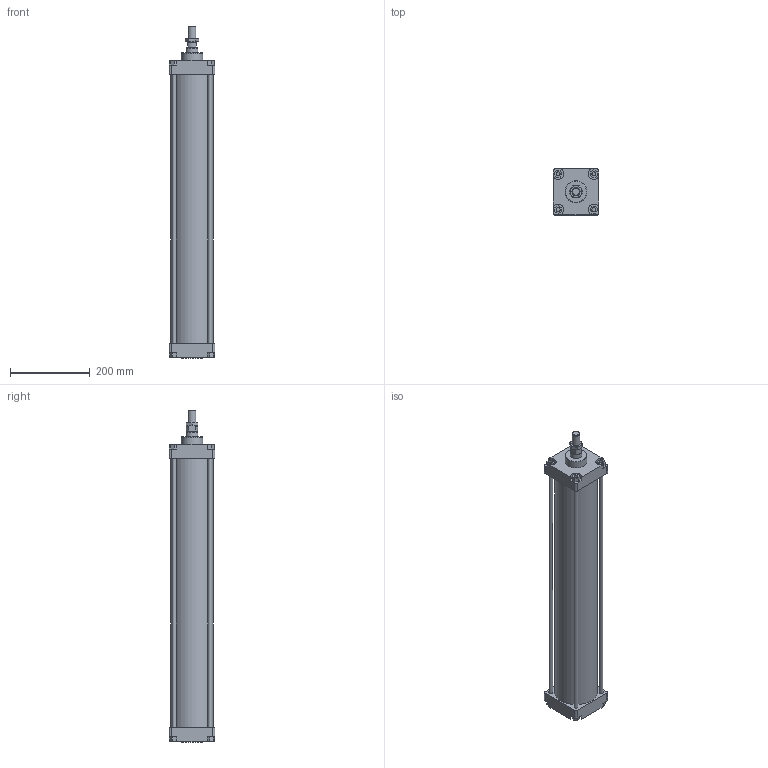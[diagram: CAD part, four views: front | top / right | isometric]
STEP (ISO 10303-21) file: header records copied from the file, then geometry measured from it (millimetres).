
FILE_DESCRIPTION(/* description */ (''),/* implementation_level */ '2;1');
FILE_NAME(/* name */ 'I:\Area Tecnica\Disegni\VARIE-3D\Componenti\CSP\Ø100\130#_100_####_###\130#_100_0600_01A.stp',/* time_stamp */ '2016-11-24T13:52:15+01:00',/* author */ ('Maniean1'),/* organization */ ('Pneumax S.p.A.'),/* preprocessor_version */ 'ST-DEVELOPER v15.2',/* originating_system */ 'Autodesk Inventor 2014',/* authorisation */ '');
FILE_SCHEMA (('AUTOMOTIVE_DESIGN { 1 0 10303 214 3 1 1 }'));
Length unit declared in the file: millimetre
Products named in the file (6): C_130#_100_0600; Testata anteriore_100; Testata posteriore_100; S_130#_100_0600_01A; 130#_100_18F; 130#_100_0600_01A
Bounding box: 115 x 115 x 834 mm (x, y, z)
Volume: 2800445.9 mm3; surface area: 744184.8 mm2
Topology: 9 solids, 9 shells, 162 faces, 380 edges, 249 vertices
Faces by surface type: plane 105, cylinder 42, cone 15
Full cylindrical faces by diameter (mm): 10 x12, 18.376 x1, 18.5 x1, 19 x2, 20 x1, 28 x1, 30 x3, 55 x2, 100 x2, 106 x1
Entity records: 4530 total; most frequent: CARTESIAN_POINT 785, DIRECTION 764, ORIENTED_EDGE 672, EDGE_CURVE 336, AXIS2_PLACEMENT_3D 271, VERTEX_POINT 244, EDGE_LOOP 236, LINE 222
